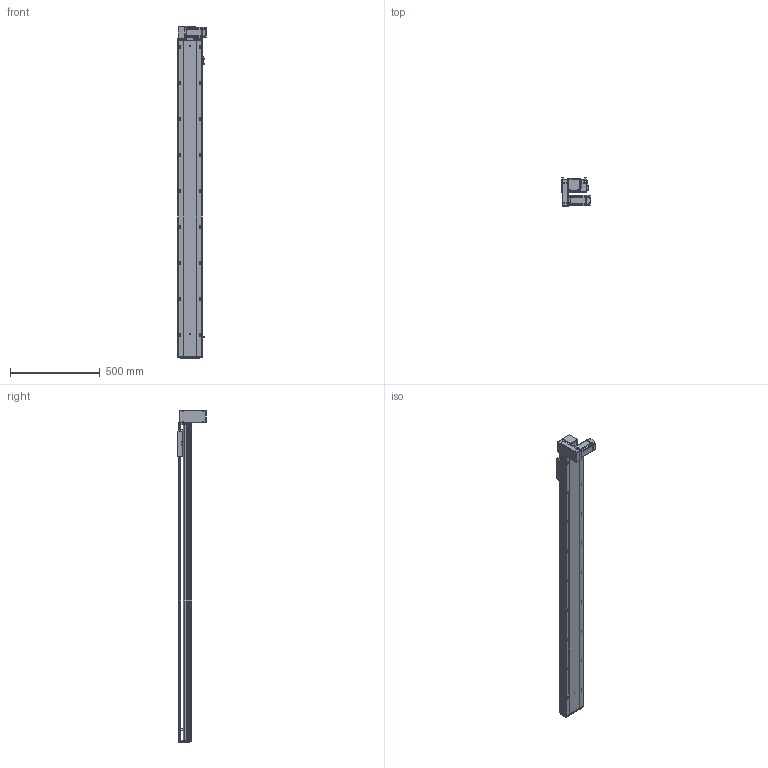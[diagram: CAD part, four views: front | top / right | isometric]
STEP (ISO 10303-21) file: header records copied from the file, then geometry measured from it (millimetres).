
FILE_DESCRIPTION (( 'STEP AP203' ), '1' );
FILE_NAME ('RY140-T-300-DL.SLDASM_1500.step', '2021-03-01T06:07:08', ( '盈信电脑' ), ( '东莞市道滘镇水果街19号' ), 'SwSTEP 2.0', 'SolidWorks 2012', '' );
FILE_SCHEMA (( 'CONFIG_CONTROL_DESIGN' ));
Length unit declared in the file: millimetre
Products named in the file (18): RY140綴裔啣; RY140-T-300-DL倰第奻裔啣_1500; RY140肮祭謫臏賑輸; RY140-T-300-DL倰第菁釱_1500; RY140-T-300-DL.SLDASM_1500; RY140-T萇儂欶; RY140-T翋肮謫裔啣; RY120-T蹟翐M4; 滅袉蝶18-10; 侂狟400W侜督萇儂; RY120-T主同步轮轴承压盖; RY140-T萇儂假蚾啣; 15; RY140-T翋肮祭謫盓傅釱; RY120-T肮祭湍揤踡輸2; RY120-T肮祭湍揤踡輸1; RY120外置感应片(140共用）; 覜茼ん672
Assembly tree (23 placements, depth 3):
  RY140-T-300-DL.SLDASM_1500
    RY140-T-300-DL倰第菁釱_1500
    RY140肮祭謫臏賑輸
    RY140-T-300-DL倰第奻裔啣_1500
    RY140綴裔啣
    覜茼ん672  x3
    RY120外置感应片(140共用）
    RY120-T肮祭湍揤踡輸2
    RY120-T肮祭湍揤踡輸1
    RY140-T翋肮祭謫盓傅釱
    RY140-T萇儂假蚾啣
    侂狟400W侜督萇儂
      15
    RY120-T主同步轮轴承压盖
    RY120-T蹟翐M4  x4
    RY140-T萇儂欶
    滅袉蝶18-10  x2
    RY140-T翋肮謫裔啣
Bounding box: 157 x 158.5 x 1846 mm (x, y, z)
Volume: 5193042.4 mm3; surface area: 2012896.3 mm2
Topology: 22 solids, 22 shells, 2778 faces, 7610 edges, 4860 vertices
Faces by surface type: plane 1385, cylinder 1039, cone 254, bspline 100
Entity records: 87756 total; most frequent: CARTESIAN_POINT 21295, ORIENTED_EDGE 13636, DIRECTION 13032, EDGE_CURVE 6818, VERTEX_POINT 4459, AXIS2_PLACEMENT_3D 4357, LINE 4318, VECTOR 4318
